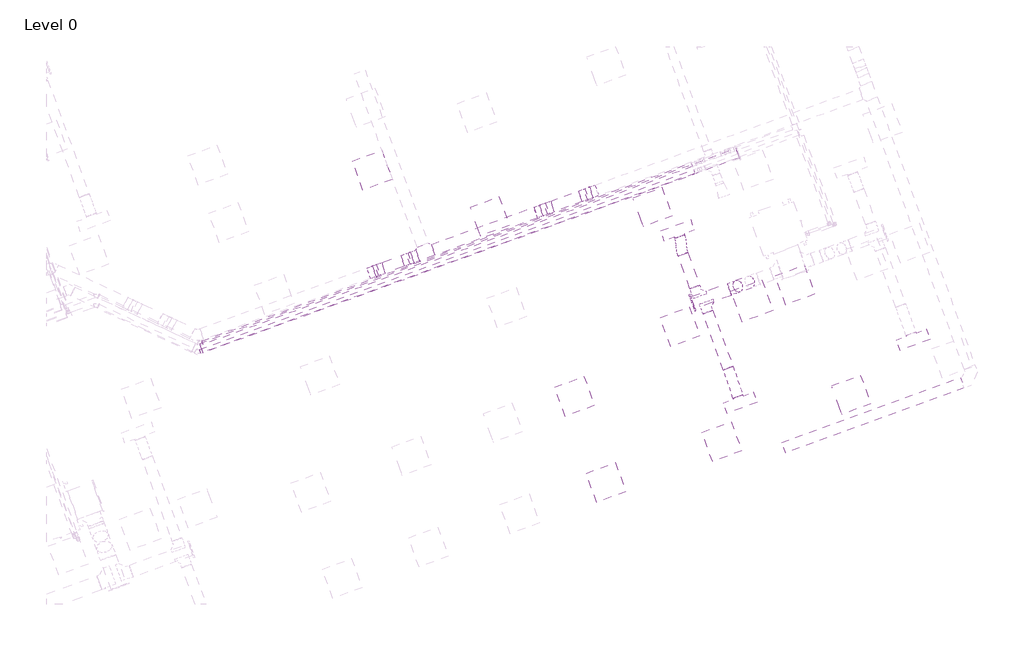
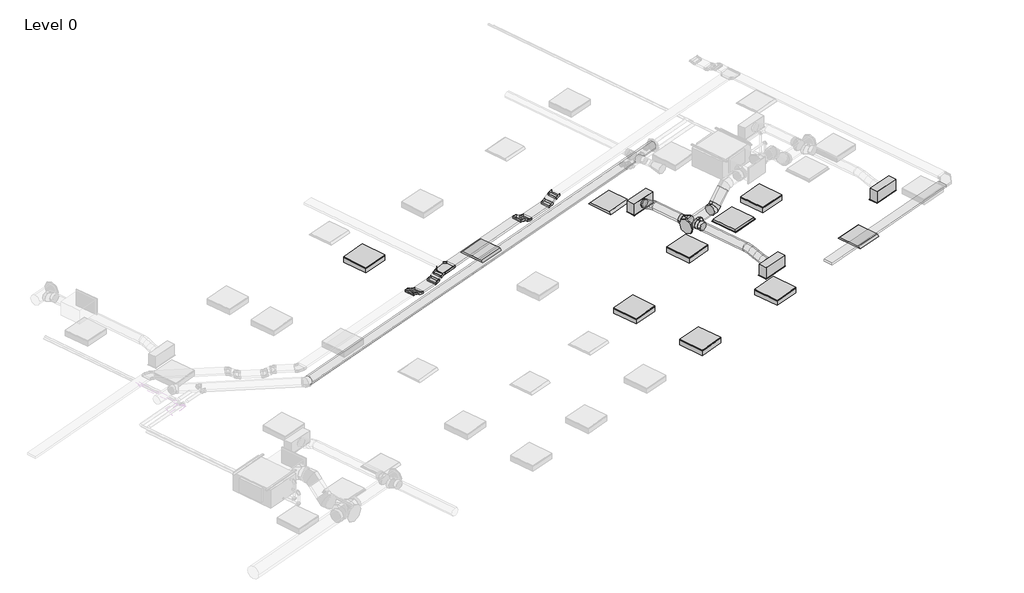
# One storey, part 28 of 34: 9 cable carrier fittings, 9 light fixtures, 8 cable carrier segments, 7 duct segments, 4 air terminals, 4 duct fittings, 2 pipe segments.
"""IFC4 building model written with IfcOpenShell, lengths in millimetres."""

from ifc_helpers import new_model, si_unit, point, frame, frame_2d, origin, place, context, project, spatial, polyline, circle_curve, ellipse_curve, trimmed, segment, composite_curve, outline, extrude, transform, mapped, element, save
from ifc_brep_helpers import plane_surface, cylinder_surface, advanced_brep
from components import return_grille_rectangular_hosted_standard_7b12617c, supply_diffuser_with_plenum_linear_slot_hosted_2b730595, cable_tray_horizontal_tee_standard_d76b5e15, cable_tray_vertical_inside_bend_standard_9a66f55b, cable_tray_vertical_outside_bend_standard_4df2047e, dw144_round_blank_end_standard_e3d0b58b, dw144_round_segmented_bend_slip_joint_standard_636bd9c1, dw144_round_shoe_branch_slip_joint1_standard_2_559552f4, light_fixture_b730b5ca, troffer_light_2x2_parabolic_2_x2_2_lamp_120v_6a063ff3

model = new_model("IFC4")

# Units and contexts
model_context = context("Model", 3, world=origin())
ifc_project = project(units=[si_unit("LENGTHUNIT", "METRE", prefix="MILLI")], contexts=[model_context])

# Site, building, storey
site = spatial("IfcSite", under=ifc_project)
building = spatial("IfcBuilding", under=site)
storey = spatial("IfcBuildingStorey", under=building, Name="Level 0", Elevation=0.0)

# Air terminals
placement = place(None, origin())
return_grille_rectangular_hosted_standard_shape = return_grille_rectangular_hosted_standard_7b12617c(model_context)
element("IfcAirTerminal", 1, ObjectType="Return Grille - Rectangular - Hosted : Standard", at=placement, inside=storey, context=model_context, shape_type="MappedRepresentation", body=[
    mapped(return_grille_rectangular_hosted_standard_shape, transform((60068.7424503, 13719.2784407, 2800.0), x_axis=(0.9396926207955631, 0.3420201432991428, 0.0), y_axis=(0.3420201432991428, -0.9396926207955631, 0.0), z_axis=(0.0, 0.0, -1.0))),
])
supply_diffuser_with_plenum_linear_slot_hosted_shape = supply_diffuser_with_plenum_linear_slot_hosted_2b730595(model_context)
element("IfcAirTerminal", 2, ObjectType="Supply Diffuser with Plenum - Linear Slot - Hosted : 24\" x 8\"-200 In Inlet  4-Slot", at=placement, inside=storey, context=model_context, shape_type="MappedRepresentation", body=[
    mapped(supply_diffuser_with_plenum_linear_slot_hosted_shape, transform((58607.3828335, 15102.9070291, 2800.0), x_axis=(-0.9396926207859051, -0.3420201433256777, 0.0), y_axis=(-0.3420201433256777, 0.9396926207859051, 0.0), z_axis=(0.0, 0.0, -1.0))),
])
element("IfcAirTerminal", 3, ObjectType="Supply Diffuser with Plenum - Linear Slot - Hosted : 24\" x 8\"-200 In Inlet  4-Slot", at=placement, inside=storey, context=model_context, shape_type="MappedRepresentation", body=[
    mapped(supply_diffuser_with_plenum_linear_slot_hosted_shape, transform((59838.6553495, 11720.0135943, 2800.0), x_axis=(0.9396926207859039, 0.342020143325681, 0.0), y_axis=(0.342020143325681, -0.9396926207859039, 0.0), z_axis=(0.0, 0.0, -1.0))),
])
element("IfcAirTerminal", 4, ObjectType="Supply Diffuser with Plenum - Linear Slot - Hosted : 24\" x 8\"-200 In Inlet  4-Slot", at=placement, inside=storey, context=model_context, shape_type="MappedRepresentation", body=[
    mapped(supply_diffuser_with_plenum_linear_slot_hosted_shape, transform((63232.5431876, 12955.2877458, 2800.0), x_axis=(0.9396926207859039, 0.342020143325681, 0.0), y_axis=(0.342020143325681, -0.9396926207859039, 0.0), z_axis=(0.0, 0.0, -1.0))),
])

# Cable carrier fittings
cable_tray_horizontal_tee_standard_shape = cable_tray_horizontal_tee_standard_d76b5e15(model_context)
element("IfcCableCarrierFitting", 5, ObjectType="Cable Tray Horizontal Tee : Standard", at=placement, inside=storey, context=model_context, shape_type="MappedRepresentation", body=[
    mapped(cable_tray_horizontal_tee_standard_shape, transform((53662.1916852, 14665.8825169, 3248.9627355), x_axis=(-0.9396926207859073, -0.3420201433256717, 0.0), y_axis=(0.3420201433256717, -0.9396926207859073, 0.0), z_axis=(0.0, 0.0, 1.0))),
])
cable_tray_vertical_inside_bend_standard_shape = cable_tray_vertical_inside_bend_standard_9a66f55b(model_context)
element("IfcCableCarrierFitting", 6, ObjectType="Cable Tray Vertical Inside Bend : Standard", at=placement, inside=storey, context=model_context, shape_type="MappedRepresentation", body=[
    mapped(cable_tray_vertical_inside_bend_standard_shape, transform((56092.1995201, 15550.3330379, 3125.0), x_axis=(-0.9396926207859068, -0.3420201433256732, 0.0), y_axis=(0.0, 0.0, 1.0), z_axis=(-0.3420201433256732, 0.9396926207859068, 0.0))),
])
element("IfcCableCarrierFitting", 7, ObjectType="Cable Tray Vertical Inside Bend : Standard", at=placement, inside=storey, context=model_context, shape_type="MappedRepresentation", body=[
    mapped(cable_tray_vertical_inside_bend_standard_shape, transform((56761.0702068, 15793.7820584, 3125.0), x_axis=(-0.8137976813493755, -0.29619813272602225, -0.4999999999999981), y_axis=(-0.46984631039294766, -0.17101007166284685, 0.8660254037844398), z_axis=(-0.3420201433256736, 0.9396926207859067, 0.0))),
])
element("IfcCableCarrierFitting", 8, ObjectType="Cable Tray Vertical Inside Bend : Standard", at=placement, inside=storey, context=model_context, shape_type="MappedRepresentation", body=[
    mapped(cable_tray_vertical_inside_bend_standard_shape, transform((52776.5170732, 14343.5233209, 3148.9627355), x_axis=(-0.9396926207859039, -0.3420201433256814, 0.0), y_axis=(0.0, 0.0, 1.0000000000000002), z_axis=(-0.3420201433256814, 0.9396926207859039, 0.0))),
])
element("IfcCableCarrierFitting", 9, ObjectType="Cable Tray Vertical Inside Bend : Standard", at=placement, inside=storey, context=model_context, shape_type="MappedRepresentation", body=[
    mapped(cable_tray_vertical_inside_bend_standard_shape, transform((53283.7846283, 14528.1536118, 3148.9627355), x_axis=(-0.8137976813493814, -0.29619813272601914, -0.4999999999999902), y_axis=(-0.4698463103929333, -0.17101007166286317, 0.8660254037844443), z_axis=(-0.3420201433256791, 0.9396926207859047, 0.0))),
])
cable_tray_vertical_outside_bend_standard_shape = cable_tray_vertical_outside_bend_standard_4df2047e(model_context)
element("IfcCableCarrierFitting", 10, ObjectType="Cable Tray Vertical Outside Bend : Standard", at=placement, inside=storey, context=model_context, shape_type="MappedRepresentation", body=[
    mapped(cable_tray_vertical_outside_bend_standard_shape, transform((55890.4383468, 15476.8979763, 3248.9627355), x_axis=(0.9396926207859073, 0.3420201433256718, 0.0), y_axis=(0.0, 0.0, -1.0000000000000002), z_axis=(-0.3420201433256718, 0.9396926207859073, 0.0))),
])
element("IfcCableCarrierFitting", 11, ObjectType="Cable Tray Vertical Outside Bend : Standard", at=placement, inside=storey, context=model_context, shape_type="MappedRepresentation", body=[
    mapped(cable_tray_vertical_outside_bend_standard_shape, transform((56962.8313802, 15867.2171199, 3248.9627355), x_axis=(0.8137976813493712, 0.29619813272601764, 0.5000000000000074), y_axis=(0.4698463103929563, 0.17101007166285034, -0.8660254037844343), z_axis=(-0.3420201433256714, 0.9396926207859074, 0.0))),
])
element("IfcCableCarrierFitting", 12, ObjectType="Cable Tray Vertical Outside Bend : Standard", at=placement, inside=storey, context=model_context, shape_type="MappedRepresentation", body=[
    mapped(cable_tray_vertical_outside_bend_standard_shape, transform((52613.757537, 14284.2836944, 3248.9627355), x_axis=(0.9396926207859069, 0.34202014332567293, 0.0), y_axis=(0.0, 0.0, -1.0), z_axis=(-0.34202014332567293, 0.9396926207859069, 0.0))),
])
element("IfcCableCarrierFitting", 13, ObjectType="Cable Tray Vertical Outside Bend : Standard", at=placement, inside=storey, context=model_context, shape_type="MappedRepresentation", body=[
    mapped(cable_tray_vertical_outside_bend_standard_shape, transform((53446.5441646, 14587.3932383, 3248.9627355), x_axis=(0.8137976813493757, 0.29619813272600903, 0.5000000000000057), y_axis=(0.4698463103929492, 0.17101007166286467, -0.8660254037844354), z_axis=(-0.34202014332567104, 0.9396926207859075, 0.0))),
])

# Cable carrier segments
element("IfcCableCarrierSegment", 14, ObjectType="Perforated Cable Tray", at=placement, inside=storey, context=model_context, shape_type="SweptSolid", body=[
    extrude(outline(polyline([(53853.3690022, 14615.7453704), (53776.4144699, 14827.17621), (55789.0136109, 15559.7023909), (55865.9681432, 15348.2715512), (53853.3690022, 14615.7453704)])), frame((0.0, 0.0, 3223.9627355), z_axis=(0.0, 0.0, 1.0), x_axis=(1.0, 0.0, 0.0)), (0.0, 0.0, 1.0), 50.0),
])
element("IfcCableCarrierSegment", 15, ObjectType="Perforated Cable Tray", at=placement, inside=storey, context=model_context, shape_type="SweptSolid", body=[
    extrude(outline(polyline([(0.0, -225.0), (0.0, 0.0), (113.9508747, 0.0), (113.9508747, -225.0), (0.0, -225.0)])), frame((55894.7290307, 15598.179657, 3193.8184513), z_axis=(0.4698463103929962, 0.1710100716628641, 0.8660254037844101), x_axis=(0.8137976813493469, 0.29619813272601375, -0.5000000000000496)), (0.0, 0.0, 1.0), 50.0),
])
element("IfcCableCarrierSegment", 16, ObjectType="Perforated Cable Tray", at=placement, inside=storey, context=model_context, shape_type="SweptSolid", body=[
    extrude(outline(polyline([(56193.624256, 15467.5286233), (56116.6697237, 15678.959463), (56659.645471, 15876.5864729), (56736.6000032, 15665.1556332), (56193.624256, 15467.5286233)])), frame((0.0, 0.0, 3100.0), z_axis=(0.0, 0.0, 1.0), x_axis=(1.0, 0.0, 0.0)), (0.0, 0.0, 1.0), 50.0),
])
element("IfcCableCarrierSegment", 17, ObjectType="Perforated Cable Tray", at=placement, inside=storey, context=model_context, shape_type="SweptSolid", body=[
    extrude(outline(polyline([(1e-07, -224.9999999), (0.0, 0.0), (113.9508747, 0.0), (113.9508747, -224.9999999), (1e-07, -224.9999999)])), frame((56788.8532063, 15923.6142426, 3136.843014), z_axis=(-0.4698463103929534, -0.17101007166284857, 0.8660254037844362), x_axis=(0.813797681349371, 0.2961981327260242, 0.5000000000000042)), (0.0, 0.0, 1.0), 50.0),
])
element("IfcCableCarrierSegment", 18, ObjectType="Perforated Cable Tray", at=placement, inside=storey, context=model_context, shape_type="SweptSolid", body=[
    extrude(outline(polyline([(64157.7578179, 12218.7489992), (64234.7123502, 12007.3181595), (60729.218143, 10731.4226117), (60652.2636108, 10942.8534514), (64157.7578179, 12218.7489992)])), frame((0.0, 0.0, 3223.9627355), z_axis=(0.0, 0.0, 1.0), x_axis=(1.0, 0.0, 0.0)), (0.0, 0.0, 1.0), 50.0),
])
element("IfcCableCarrierSegment", 19, ObjectType="Perforated Cable Tray", at=placement, inside=storey, context=model_context, shape_type="SweptSolid", body=[
    extrude(outline(polyline([(1e-07, -224.9999999), (0.0, 0.0), (66.0254039, 0.0), (66.0254038, -225.0), (1e-07, -224.9999999)])), frame((52618.0482209, 14405.565375, 3193.8184513), z_axis=(0.46984631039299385, 0.17101007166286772, 0.8660254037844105), x_axis=(0.8137976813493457, 0.2961981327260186, -0.5000000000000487)), (0.0, 0.0, 1.0), 50.0),
])
element("IfcCableCarrierSegment", 20, ObjectType="Perforated Cable Tray", at=placement, inside=storey, context=model_context, shape_type="SweptSolid", body=[
    extrude(outline(polyline([(52877.9418091, 14260.7189064), (52800.9872768, 14472.149746), (53182.3598925, 14610.9580263), (53259.3144247, 14399.5271866), (52877.9418091, 14260.7189064)])), frame((0.0, 0.0, 3123.9627355), z_axis=(0.0, 0.0, 1.0), x_axis=(1.0, 0.0, 0.0)), (0.0, 0.0, 1.0), 50.0),
])
element("IfcCableCarrierSegment", 21, ObjectType="Perforated Cable Tray", at=placement, inside=storey, context=model_context, shape_type="SweptSolid", body=[
    extrude(outline(polyline([(0.0, -225.0), (0.0, 0.0), (66.0254038, 0.0), (66.0254038, -225.0), (0.0, -225.0)])), frame((53311.5676278, 14657.985796, 3160.8057494), z_axis=(-0.46984631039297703, -0.17101007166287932, 0.8660254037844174), x_axis=(0.8137976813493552, 0.2961981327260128, 0.5000000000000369)), (0.0, 0.0, 1.0), 50.0),
])

# Duct fittings
dw144_round_blank_end_standard_shape = dw144_round_blank_end_standard_e3d0b58b(model_context)
element("IfcDuctFitting", 22, ObjectType="DW144 Round Blank End : Standard", at=placement, inside=storey, context=model_context, shape_type="MappedRepresentation", body=[
    mapped(dw144_round_blank_end_standard_shape, transform((58910.1934303, 13684.7593256, 3072.2088531), x_axis=(-0.9396926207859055, -0.3420201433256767, 0.0), y_axis=(0.3420201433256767, -0.9396926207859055, 0.0), z_axis=(0.0, 0.0, 1.0))),
])
dw144_round_segmented_bend_slip_joint_standard_shape = dw144_round_segmented_bend_slip_joint_standard_636bd9c1(model_context)
element("IfcDuctFitting", 23, ObjectType="DW144 Round Segmented Bend - Slip Joint : Standard", at=placement, inside=storey, context=model_context, shape_type="MappedRepresentation", body=[
    mapped(dw144_round_segmented_bend_slip_joint_standard_shape, transform((59723.6586367, 13980.8364474, 3072.2088531), x_axis=(-0.6644630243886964, -0.24184476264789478, -0.7071067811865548), y_axis=(-0.6644630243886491, -0.24184476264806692, 0.7071067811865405), z_axis=(-0.34202014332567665, 0.9396926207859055, 0.0))),
])
dw144_round_shoe_branch_slip_joint1_standard_2_shape = dw144_round_shoe_branch_slip_joint1_standard_2_559552f4(model_context)
element("IfcDuctFitting", 24, ObjectType="DW144 Round Shoe Branch - Slip Joint1 : Standard 2", at=placement, inside=storey, context=model_context, shape_type="MappedRepresentation", body=[
    mapped(dw144_round_shoe_branch_slip_joint1_standard_2_shape, transform((58998.2785619, 13849.8419132, 3072.2088531), x_axis=(-0.3420201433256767, 0.9396926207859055, 0.0), y_axis=(0.9396926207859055, 0.3420201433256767, 0.0), z_axis=(0.0, 0.0, -1.0))),
])
element("IfcDuctFitting", 25, ObjectType="DW144 Round Shoe Branch - Slip Joint1 : Standard 2", at=placement, inside=storey, context=model_context, shape_type="MappedRepresentation", body=[
    mapped(dw144_round_shoe_branch_slip_joint1_standard_2_shape, transform((59152.3357519, 13639.8697016, 3072.2088531), x_axis=(0.3420201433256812, -0.9396926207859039, 0.0), y_axis=(0.9396926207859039, 0.3420201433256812, 0.0), z_axis=(0.0, 0.0, 1.0))),
])

# Duct segments
element("IfcDuctSegment", 26, ObjectType="DW144 Segmented Bend / Shoe Branch", at=placement, inside=storey, context=model_context, shape_type="SweptSolid", body=[
    extrude(outline(composite_curve([segment(trimmed(circle_curve(frame_2d((0.0, 125.0)), 125.0), [point((125.0, 125.0))], [point((0.0, 0.0))], False, "CARTESIAN"), True, "CONTINUOUS"), segment(trimmed(circle_curve(frame_2d((0.0, 125.0)), 125.0), [point((0.0, 0.0))], [point((-125.0, 125.0))], False, "CARTESIAN"), True, "CONTINUOUS"), segment(trimmed(circle_curve(frame_2d((0.0, 125.0)), 125.0), [point((-125.0, 125.0))], [point((0.0, 250.0))], False, "CARTESIAN"), True, "CONTINUOUS"), segment(trimmed(circle_curve(frame_2d((0.0, 125.0)), 125.0), [point((0.0, 250.0))], [point((125.0, 125.0))], False, "CARTESIAN"), True, "CONTINUOUS")], self_intersect=False)), frame((58910.1934303, 13684.7593256, 3197.2088531), z_axis=(0.9396926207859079, 0.3420201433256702, 0.0), x_axis=(0.3420201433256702, -0.9396926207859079, 0.0)), (0.0, 0.0, 1.0), 762.1182008),
])
element("IfcDuctSegment", 27, ObjectType="DW144 Segmented Bend / Shoe Branch", at=placement, inside=storey, context=model_context, shape_type="SweptSolid", body=[
    extrude(outline(composite_curve([segment(trimmed(circle_curve(frame_2d((0.0, -100.0)), 100.0), [point((-100.0, -100.0))], [point((0.0, 0.0))], False, "CARTESIAN"), True, "CONTINUOUS"), segment(trimmed(circle_curve(frame_2d((0.0, -100.0)), 100.0), [point((0.0, 0.0))], [point((100.0, -100.0))], False, "CARTESIAN"), True, "CONTINUOUS"), segment(trimmed(circle_curve(frame_2d((0.0, -100.0)), 100.0), [point((100.0, -100.0))], [point((0.0, -200.0))], False, "CARTESIAN"), True, "CONTINUOUS"), segment(trimmed(circle_curve(frame_2d((0.0, -100.0)), 100.0), [point((0.0, -200.0))], [point((-100.0, -100.0))], False, "CARTESIAN"), True, "CONTINUOUS")], self_intersect=False)), frame((58946.9755404, 13990.7958063, 2972.2088531), z_axis=(-0.3420201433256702, 0.9396926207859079, 0.0), x_axis=(0.9396926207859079, 0.3420201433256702, 0.0)), (0.0, 0.0, 1.0), 682.8884371),
])
element("IfcDuctSegment", 28, ObjectType="DW144 Segmented Bend / Shoe Branch", at=placement, inside=storey, context=model_context, shape_type="SweptSolid", body=[
    extrude(outline(composite_curve([segment(trimmed(circle_curve(frame_2d((0.0, -100.0)), 100.0), [point((-100.0, -100.0))], [point((0.0, 0.0))], False, "CARTESIAN"), True, "CONTINUOUS"), segment(trimmed(circle_curve(frame_2d((0.0, -100.0)), 100.0), [point((0.0, 0.0))], [point((100.0, -100.0))], False, "CARTESIAN"), True, "CONTINUOUS"), segment(trimmed(circle_curve(frame_2d((0.0, -100.0)), 100.0), [point((100.0, -100.0))], [point((0.0, -200.0))], False, "CARTESIAN"), True, "CONTINUOUS"), segment(trimmed(circle_curve(frame_2d((0.0, -100.0)), 100.0), [point((0.0, -200.0))], [point((-100.0, -100.0))], False, "CARTESIAN"), True, "CONTINUOUS")], self_intersect=False)), frame((59604.382353, 12397.8818724, 2972.2088531), z_axis=(-0.3420201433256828, 0.9396926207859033, 0.0), x_axis=(0.9396926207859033, 0.3420201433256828, 0.0)), (0.0, 0.0, 1.0), 1171.6958415),
])
element("IfcDuctSegment", 29, ObjectType="DW144 Segmented Bend / Shoe Branch", at=placement, inside=storey, context=model_context, shape_type="SweptSolid", body=[
    extrude(outline(composite_curve([segment(trimmed(circle_curve(frame_2d((0.0, -125.0)), 125.0), [point((-57.2076922, -13.8591887))], [point((111.1408113, -67.7923077))], False, "CARTESIAN"), True, "CONTINUOUS"), segment(trimmed(circle_curve(frame_2d((0.0, -125.0)), 125.0), [point((111.1408113, -67.7923077))], [point((57.2076923, -236.1408114))], False, "CARTESIAN"), True, "CONTINUOUS"), segment(trimmed(circle_curve(frame_2d((0.0, -125.0)), 125.0), [point((57.2076923, -236.1408114))], [point((-111.1408114, -182.2076923))], False, "CARTESIAN"), True, "CONTINUOUS"), segment(trimmed(circle_curve(frame_2d((0.0, -125.0)), 125.0), [point((-111.1408114, -182.2076923))], [point((-57.2076922, -13.8591887))], False, "CARTESIAN"), True, "CONTINUOUS")], self_intersect=False)), frame((59792.4660358, 14124.1538736, 3104.9802107), z_axis=(0.6644630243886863, 0.24184476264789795, 0.7071067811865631), x_axis=(0.7473211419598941, -0.21503058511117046, -0.6287073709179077)), (0.0, 0.0, 1.0), 354.8538129),
])
element("IfcDuctSegment", 30, ObjectType="DW144 Segmented Bend / Shoe Branch", at=placement, inside=storey, context=model_context, shape_type="SweptSolid", body=[
    extrude(outline(composite_curve([segment(trimmed(circle_curve(frame_2d((0.0, 100.0)), 100.0), [point((100.0, 100.0))], [point((0.0, 0.0))], False, "CARTESIAN"), True, "CONTINUOUS"), segment(trimmed(circle_curve(frame_2d((0.0, 100.0)), 100.0), [point((0.0, 0.0))], [point((-100.0, 100.0))], False, "CARTESIAN"), True, "CONTINUOUS"), segment(trimmed(circle_curve(frame_2d((0.0, 100.0)), 100.0), [point((-100.0, 100.0))], [point((0.0, 200.0))], False, "CARTESIAN"), True, "CONTINUOUS"), segment(trimmed(circle_curve(frame_2d((0.0, 100.0)), 100.0), [point((0.0, 200.0))], [point((100.0, 100.0))], False, "CARTESIAN"), True, "CONTINUOUS")], self_intersect=False)), frame((49264.7509772, 12791.2817801, 3150.0), z_axis=(0.9396926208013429, 0.3420201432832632, 0.0), x_axis=(0.3420201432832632, -0.9396926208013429, 0.0)), (0.0, 0.0, 1.0), 11193.8317045),
])
element("IfcDuctSegment", 31, ObjectType="Flex - Round", at=placement, inside=storey, context=model_context, shape_type="AdvancedBrep", body=[
    advanced_brep(
    [(58619.4446772, 14598.2990171, 3072.2088531), (58713.4139393, 14632.5010315, 2972.2088531), (58807.3832013, 14666.7030458, 3072.2088531), (58713.4139393, 14632.5010315, 3172.2088531), (58611.8571705, 14619.1455202, 3072.2088531), (58711.4285678, 14637.9557946, 2972.2088531), (58803.6283672, 14677.0193678, 3072.2088531), (58704.0569699, 14658.2090934, 3172.2088531), (58556.8501296, 14949.364052, 2954.4), (58650.8193917, 14983.5660663, 3054.4), (58744.7886538, 15017.7680806, 2954.4), (58650.8193917, 14983.5660663, 2854.4), (58596.3356475, 14683.7417421, 3057.7687719), (58702.7822561, 14673.9393168, 2964.1649619), (58792.8104852, 14722.0403558, 3062.1446929), (58686.3638766, 14731.842781, 3155.7485029), (58586.178233, 14759.8572711, 3026.0560812), (58694.9620266, 14732.5409334, 2939.7492485), (58784.252044, 14786.1738302, 3035.4241924), (58675.4682505, 14813.4901678, 3121.7310251), (58579.9812869, 14829.8932676, 2991.1846607), (58688.7650805, 14802.5769299, 2904.877828), (58778.0550979, 14856.2098266, 3000.5527719), (58669.2713044, 14883.5261643, 3086.8596046), (58571.4228458, 14894.026742, 2964.4641602), (58677.8694544, 14884.2243167, 2870.8603502), (58767.8976835, 14932.3253557, 2968.8400813), (58661.4510749, 14942.1277809, 3062.4438913), (58560.6049638, 14939.0477299, 2954.4), (58660.1763611, 14957.8580043, 2854.4), (58752.3761604, 14996.9215775, 2954.4), (58652.8047631, 14978.1113031, 3054.4)],
    [
        (0, 1, circle_curve(frame((58713.4139393, 14632.5010315, 3072.2088531), z_axis=(0.34202014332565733, -0.9396926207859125, 0.0), x_axis=(-0.9396926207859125, -0.34202014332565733, 0.0)), 100.0)),
        (1, 2, circle_curve(frame((58713.4139393, 14632.5010315, 3072.2088531), z_axis=(0.34202014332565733, -0.9396926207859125, 0.0), x_axis=(-0.9396926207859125, -0.34202014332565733, 0.0)), 100.0)),
        (2, 3, circle_curve(frame((58713.4139393, 14632.5010315, 3072.2088531), z_axis=(0.34202014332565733, -0.9396926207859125, 0.0), x_axis=(-0.9396926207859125, -0.34202014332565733, 0.0)), 100.0)),
        (3, 0, circle_curve(frame((58713.4139393, 14632.5010315, 3072.2088531), z_axis=(0.34202014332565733, -0.9396926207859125, 0.0), x_axis=(-0.9396926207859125, -0.34202014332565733, 0.0)), 100.0)),
        (0, 4),
        (4, 5, ellipse_curve(frame((58707.7427689, 14648.082444, 3072.2088531), z_axis=(0.2872580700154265, -0.951860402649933, 0.10697932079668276), x_axis=(0.47155649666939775, 0.043319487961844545, -0.8807711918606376)), 100.7349377, 100.0)),
        (5, 1),
        (5, 6, ellipse_curve(frame((58707.7427689, 14648.082444, 3072.2088531), z_axis=(0.2872580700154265, -0.951860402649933, 0.10697932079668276), x_axis=(0.47155649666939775, 0.043319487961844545, -0.8807711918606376)), 100.7349377, 100.0)),
        (6, 2),
        (6, 7, ellipse_curve(frame((58707.7427689, 14648.082444, 3072.2088531), z_axis=(0.2872580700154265, -0.951860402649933, 0.10697932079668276), x_axis=(0.47155649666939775, 0.043319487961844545, -0.8807711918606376)), 100.7349377, 100.0)),
        (7, 3),
        (7, 4, ellipse_curve(frame((58707.7427689, 14648.082444, 3072.2088531), z_axis=(0.2872580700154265, -0.951860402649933, 0.10697932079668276), x_axis=(0.47155649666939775, 0.043319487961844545, -0.8807711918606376)), 100.7349377, 100.0)),
        (8, 9, circle_curve(frame((58650.8193917, 14983.5660663, 2954.4), z_axis=(-0.3420201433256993, 0.9396926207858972, 0.0), x_axis=(-0.9396926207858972, -0.3420201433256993, 0.0)), 100.0)),
        (9, 10, circle_curve(frame((58650.8193917, 14983.5660663, 2954.4), z_axis=(-0.3420201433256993, 0.9396926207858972, 0.0), x_axis=(-0.9396926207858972, -0.3420201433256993, 0.0)), 100.0)),
        (10, 11, circle_curve(frame((58650.8193917, 14983.5660663, 2954.4), z_axis=(-0.3420201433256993, 0.9396926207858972, 0.0), x_axis=(-0.9396926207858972, -0.3420201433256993, 0.0)), 100.0)),
        (11, 8, circle_curve(frame((58650.8193917, 14983.5660663, 2954.4), z_axis=(-0.3420201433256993, 0.9396926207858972, 0.0), x_axis=(-0.9396926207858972, -0.3420201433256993, 0.0)), 100.0)),
        (4, 12),
        (12, 13, ellipse_curve(frame((58694.5730663, 14702.8910489, 3059.9567324), z_axis=(0.1761886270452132, -0.9379774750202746, 0.2985897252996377), x_axis=(0.5232975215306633, -0.16766949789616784, -0.8354918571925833)), 100.5173143, 100.0)),
        (13, 5),
        (13, 14, ellipse_curve(frame((58694.5730663, 14702.8910489, 3059.9567324), z_axis=(0.1761886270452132, -0.9379774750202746, 0.2985897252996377), x_axis=(0.5232975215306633, -0.16766949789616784, -0.8354918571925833)), 100.5173143, 100.0)),
        (14, 6),
        (14, 15, ellipse_curve(frame((58694.5730663, 14702.8910489, 3059.9567324), z_axis=(0.1761886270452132, -0.9379774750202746, 0.2985897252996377), x_axis=(0.5232975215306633, -0.16766949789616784, -0.8354918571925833)), 100.5173143, 100.0)),
        (15, 7),
        (15, 12, ellipse_curve(frame((58694.5730663, 14702.8910489, 3059.9567324), z_axis=(0.1761886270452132, -0.9379774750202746, 0.2985897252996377), x_axis=(0.5232975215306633, -0.16766949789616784, -0.8354918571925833)), 100.5173143, 100.0)),
        (12, 16),
        (16, 17, ellipse_curve(frame((58685.2151385, 14773.0155506, 3030.7401368), z_axis=(0.10068966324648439, -0.9049906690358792, 0.41334426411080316), x_axis=(0.5429036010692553, -0.2981722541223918, -0.7850789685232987)), 100.0796062, 100.0)),
        (17, 13),
        (17, 18, ellipse_curve(frame((58685.2151385, 14773.0155506, 3030.7401368), z_axis=(0.10068966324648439, -0.9049906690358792, 0.41334426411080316), x_axis=(0.5429036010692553, -0.2981722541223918, -0.7850789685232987)), 100.0796062, 100.0)),
        (18, 14),
        (18, 19, ellipse_curve(frame((58685.2151385, 14773.0155506, 3030.7401368), z_axis=(0.10068966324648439, -0.9049906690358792, 0.41334426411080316), x_axis=(0.5429036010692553, -0.2981722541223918, -0.7850789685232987)), 100.0796062, 100.0)),
        (19, 15),
        (19, 16, ellipse_curve(frame((58685.2151385, 14773.0155506, 3030.7401368), z_axis=(0.10068966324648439, -0.9049906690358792, 0.41334426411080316), x_axis=(0.5429036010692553, -0.2981722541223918, -0.7850789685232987)), 100.0796062, 100.0)),
        (16, 20),
        (20, 21, ellipse_curve(frame((58679.0181924, 14843.0515471, 2995.8687163), z_axis=(0.10068966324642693, -0.9049906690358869, 0.41334426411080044), x_axis=(-0.5429036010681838, 0.2981722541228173, 0.7850789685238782)), 100.0796062, 100.0)),
        (21, 17),
        (21, 22, ellipse_curve(frame((58679.0181924, 14843.0515471, 2995.8687163), z_axis=(0.10068966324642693, -0.9049906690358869, 0.41334426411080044), x_axis=(-0.5429036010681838, 0.2981722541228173, 0.7850789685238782)), 100.0796062, 100.0)),
        (22, 18),
        (22, 23, ellipse_curve(frame((58679.0181924, 14843.0515471, 2995.8687163), z_axis=(0.10068966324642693, -0.9049906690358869, 0.41334426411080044), x_axis=(-0.5429036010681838, 0.2981722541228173, 0.7850789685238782)), 100.0796062, 100.0)),
        (23, 19),
        (23, 20, ellipse_curve(frame((58679.0181924, 14843.0515471, 2995.8687163), z_axis=(0.10068966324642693, -0.9049906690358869, 0.41334426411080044), x_axis=(-0.5429036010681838, 0.2981722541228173, 0.7850789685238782)), 100.0796062, 100.0)),
        (20, 24),
        (24, 25, ellipse_curve(frame((58669.6602646, 14913.1760488, 2966.6521207), z_axis=(0.1761886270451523, -0.937977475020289, 0.298589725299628), x_axis=(-0.5232975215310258, 0.16766949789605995, 0.8354918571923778)), 100.5173143, 100.0)),
        (25, 21),
        (25, 26, ellipse_curve(frame((58669.6602646, 14913.1760488, 2966.6521207), z_axis=(0.1761886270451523, -0.937977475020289, 0.298589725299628), x_axis=(-0.5232975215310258, 0.16766949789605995, 0.8354918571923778)), 100.5173143, 100.0)),
        (26, 22),
        (26, 27, ellipse_curve(frame((58669.6602646, 14913.1760488, 2966.6521207), z_axis=(0.1761886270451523, -0.937977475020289, 0.298589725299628), x_axis=(-0.5232975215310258, 0.16766949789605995, 0.8354918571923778)), 100.5173143, 100.0)),
        (27, 23),
        (27, 24, ellipse_curve(frame((58669.6602646, 14913.1760488, 2966.6521207), z_axis=(0.1761886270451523, -0.937977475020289, 0.298589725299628), x_axis=(-0.5232975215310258, 0.16766949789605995, 0.8354918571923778)), 100.5173143, 100.0)),
        (24, 28),
        (28, 29, ellipse_curve(frame((58656.4905621, 14967.9846537, 2954.4), z_axis=(0.287258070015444, -0.9518604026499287, 0.10697932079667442), x_axis=(-0.47155649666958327, -0.04331948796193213, 0.8807711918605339)), 100.7349377, 100.0)),
        (29, 25),
        (29, 30, ellipse_curve(frame((58656.4905621, 14967.9846537, 2954.4), z_axis=(0.287258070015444, -0.9518604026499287, 0.10697932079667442), x_axis=(-0.47155649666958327, -0.04331948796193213, 0.8807711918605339)), 100.7349377, 100.0)),
        (30, 26),
        (30, 31, ellipse_curve(frame((58656.4905621, 14967.9846537, 2954.4), z_axis=(0.287258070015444, -0.9518604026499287, 0.10697932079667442), x_axis=(-0.47155649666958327, -0.04331948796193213, 0.8807711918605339)), 100.7349377, 100.0)),
        (31, 27),
        (31, 28, ellipse_curve(frame((58656.4905621, 14967.9846537, 2954.4), z_axis=(0.287258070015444, -0.9518604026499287, 0.10697932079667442), x_axis=(-0.47155649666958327, -0.04331948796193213, 0.8807711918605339)), 100.7349377, 100.0)),
        (28, 8),
        (11, 29),
        (10, 30),
        (9, 31),
    ],
    [
        plane_surface(frame((58713.4139393, 14632.5010315, 3172.2088531), z_axis=(0.3420201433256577, -0.9396926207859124, 0.0), x_axis=(0.9396926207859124, 0.3420201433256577, 0.0))),
        cylinder_surface(frame((58713.4139393, 14632.5010315, 3072.2088531), z_axis=(0.34202014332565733, -0.9396926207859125, 0.0), x_axis=(-0.9396926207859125, -0.34202014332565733, 0.0)), 100.0),
        plane_surface(frame((58650.8193917, 14983.5660663, 3054.4), z_axis=(-0.34202014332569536, 0.9396926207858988, 0.0), x_axis=(0.9396926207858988, 0.34202014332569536, 0.0))),
        cylinder_surface(frame((58707.7427689, 14648.082444, 3072.2088531), z_axis=(0.22830446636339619, -0.9501390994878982, 0.21239765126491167), x_axis=(-0.9716478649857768, -0.23613301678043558, -0.011900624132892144)), 100.0),
        cylinder_surface(frame((58694.5730663, 14702.8910489, 3059.9567324), z_axis=(0.12225927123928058, -0.916161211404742, 0.3817084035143), x_axis=(-0.9881182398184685, -0.14844948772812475, -0.03981323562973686)), 100.0),
        cylinder_surface(frame((58685.2151385, 14773.0155506, 3030.7401368), z_axis=(0.07895987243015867, -0.8923804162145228, 0.44432255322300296), x_axis=(-0.9918227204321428, -0.11515391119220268, -0.055020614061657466)), 100.0),
        cylinder_surface(frame((58679.0181924, 14843.0515471, 2995.8687163), z_axis=(0.12225927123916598, -0.9161612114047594, 0.3817084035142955), x_axis=(-0.9881182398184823, -0.14844948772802, -0.03981323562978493)), 100.0),
        cylinder_surface(frame((58669.6602646, 14913.1760488, 2966.6521207), z_axis=(0.22830446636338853, -0.9501390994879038, 0.21239765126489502), x_axis=(-0.9716478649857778, -0.23613301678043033, -0.01190062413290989)), 100.0),
        cylinder_surface(frame((58656.4905621, 14967.9846537, 2954.4), z_axis=(0.3420201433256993, -0.9396926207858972, 0.0), x_axis=(-0.9396926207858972, -0.3420201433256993, 0.0)), 100.0),
    ],
    [
        (0, [[1, 2, 3, 4]]),
        (1, [[-1, 5, 6, 7]]),
        (1, [[-2, -7, 8, 9]]),
        (1, [[-3, -9, 10, 11]]),
        (1, [[-4, -11, 12, -5]]),
        (2, [[13, 14, 15, 16]]),
        (3, [[-6, 17, 18, 19]]),
        (3, [[-8, -19, 20, 21]]),
        (3, [[-10, -21, 22, 23]]),
        (3, [[-12, -23, 24, -17]]),
        (4, [[-18, 25, 26, 27]]),
        (4, [[-20, -27, 28, 29]]),
        (4, [[-22, -29, 30, 31]]),
        (4, [[-24, -31, 32, -25]]),
        (5, [[-26, 33, 34, 35]]),
        (5, [[-28, -35, 36, 37]]),
        (5, [[-30, -37, 38, 39]]),
        (5, [[-32, -39, 40, -33]]),
        (6, [[-34, 41, 42, 43]]),
        (6, [[-36, -43, 44, 45]]),
        (6, [[-38, -45, 46, 47]]),
        (6, [[-40, -47, 48, -41]]),
        (7, [[-42, 49, 50, 51]]),
        (7, [[-44, -51, 52, 53]]),
        (7, [[-46, -53, 54, 55]]),
        (7, [[-48, -55, 56, -49]]),
        (8, [[-50, 57, -16, 58]]),
        (8, [[-52, -58, -15, 59]]),
        (8, [[-54, -59, -14, 60]]),
        (8, [[-56, -60, -13, -57]]),
    ],
),
])
element("IfcDuctSegment", 32, ObjectType="Flex - Round", at=placement, inside=storey, context=model_context, shape_type="AdvancedBrep", body=[
    advanced_brep(
    [(59698.3516151, 12432.0838867, 3072.2088531), (59604.382353, 12397.8818724, 2972.2088531), (59510.4130909, 12363.6798581, 3072.2088531), (59604.382353, 12397.8818724, 3172.2088531), (59702.7832903, 12419.907959, 3072.2088531), (59606.2874646, 12392.6476213, 2972.2088531), (59514.38826, 12352.7581707, 3072.2088531), (59610.8840858, 12380.0185084, 3172.2088531), (59889.1880534, 11873.5565715, 2954.4), (59795.2187913, 11839.3545572, 3054.4), (59701.2495293, 11805.1525428, 2954.4), (59795.2187913, 11839.3545572, 2854.4), (59748.1346637, 12289.9088871, 3053.6217333), (59646.7912698, 12276.5440351, 2955.608494), (59558.863762, 12225.2697715, 3053.9807064), (59660.2071559, 12238.6346235, 3151.9939456), (59794.6414339, 12150.3212424, 3012.9452804), (59691.0243193, 12143.7808446, 2916.9207171), (59604.9597104, 12086.9151871, 3013.6635727), (59708.5768251, 12093.4555849, 3109.688136), (59840.7373823, 12011.966658, 2972.6281467), (59739.3939884, 11998.601806, 2874.6149075), (59651.4664807, 11947.3275425, 2972.9871199), (59752.8098745, 11960.6923945, 3071.0003591), (59885.2128843, 11884.4782589, 2954.4), (59788.7170586, 11857.2179211, 2854.4), (59696.817854, 11817.3284705, 2954.4), (59793.3136797, 11844.5888083, 3054.4)],
    [
        (0, 1, circle_curve(frame((59604.382353, 12397.8818724, 3072.2088531), z_axis=(-0.3420201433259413, 0.9396926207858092, 0.0), x_axis=(0.9396926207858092, 0.3420201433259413, 0.0)), 100.0)),
        (1, 2, circle_curve(frame((59604.382353, 12397.8818724, 3072.2088531), z_axis=(-0.3420201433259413, 0.9396926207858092, 0.0), x_axis=(0.9396926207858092, 0.3420201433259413, 0.0)), 100.0)),
        (2, 3, circle_curve(frame((59604.382353, 12397.8818724, 3072.2088531), z_axis=(-0.3420201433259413, 0.9396926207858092, 0.0), x_axis=(0.9396926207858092, 0.3420201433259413, 0.0)), 100.0)),
        (3, 0, circle_curve(frame((59604.382353, 12397.8818724, 3072.2088531), z_axis=(-0.3420201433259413, 0.9396926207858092, 0.0), x_axis=(0.9396926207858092, 0.3420201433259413, 0.0)), 100.0)),
        (0, 4),
        (4, 5, ellipse_curve(frame((59608.5857752, 12386.3330648, 3072.2088531), z_axis=(-0.33498602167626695, 0.9398347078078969, 0.06704541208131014), x_axis=(-0.11569989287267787, 0.029587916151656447, -0.9928434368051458)), 100.2277468, 100.0)),
        (5, 1),
        (5, 6, ellipse_curve(frame((59608.5857752, 12386.3330648, 3072.2088531), z_axis=(-0.33498602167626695, 0.9398347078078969, 0.06704541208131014), x_axis=(-0.11569989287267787, 0.029587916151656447, -0.9928434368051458)), 100.2277468, 100.0)),
        (6, 2),
        (6, 7, ellipse_curve(frame((59608.5857752, 12386.3330648, 3072.2088531), z_axis=(-0.33498602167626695, 0.9398347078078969, 0.06704541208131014), x_axis=(-0.11569989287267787, 0.029587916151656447, -0.9928434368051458)), 100.2277468, 100.0)),
        (7, 3),
        (7, 4, ellipse_curve(frame((59608.5857752, 12386.3330648, 3072.2088531), z_axis=(-0.33498602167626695, 0.9398347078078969, 0.06704541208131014), x_axis=(-0.11569989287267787, 0.029587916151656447, -0.9928434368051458)), 100.2277468, 100.0)),
        (8, 9, circle_curve(frame((59795.2187913, 11839.3545572, 2954.4), z_axis=(0.3420201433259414, -0.9396926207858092, 0.0), x_axis=(0.9396926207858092, 0.3420201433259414, 0.0)), 100.0)),
        (9, 10, circle_curve(frame((59795.2187913, 11839.3545572, 2954.4), z_axis=(0.3420201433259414, -0.9396926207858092, 0.0), x_axis=(0.9396926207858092, 0.3420201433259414, 0.0)), 100.0)),
        (10, 11, circle_curve(frame((59795.2187913, 11839.3545572, 2954.4), z_axis=(0.3420201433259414, -0.9396926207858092, 0.0), x_axis=(0.9396926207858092, 0.3420201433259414, 0.0)), 100.0)),
        (11, 8, circle_curve(frame((59795.2187913, 11839.3545572, 2954.4), z_axis=(0.3420201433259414, -0.9396926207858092, 0.0), x_axis=(0.9396926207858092, 0.3420201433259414, 0.0)), 100.0)),
        (4, 12),
        (12, 13, ellipse_curve(frame((59653.4992129, 12257.5893293, 3053.8012198), z_axis=(-0.31627915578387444, 0.9272164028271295, 0.20059221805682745), x_axis=(-0.15990495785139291, 0.15631527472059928, -0.974677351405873)), 100.2324466, 100.0)),
        (13, 5),
        (13, 14, ellipse_curve(frame((59653.4992129, 12257.5893293, 3053.8012198), z_axis=(-0.31627915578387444, 0.9272164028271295, 0.20059221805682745), x_axis=(-0.15990495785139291, 0.15631527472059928, -0.974677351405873)), 100.2324466, 100.0)),
        (14, 6),
        (14, 15, ellipse_curve(frame((59653.4992129, 12257.5893293, 3053.8012198), z_axis=(-0.31627915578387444, 0.9272164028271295, 0.20059221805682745), x_axis=(-0.15990495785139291, 0.15631527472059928, -0.974677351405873)), 100.2324466, 100.0)),
        (15, 7),
        (15, 12, ellipse_curve(frame((59653.4992129, 12257.5893293, 3053.8012198), z_axis=(-0.31627915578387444, 0.9272164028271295, 0.20059221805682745), x_axis=(-0.15990495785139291, 0.15631527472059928, -0.974677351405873)), 100.2324466, 100.0)),
        (12, 16),
        (16, 17, circle_curve(frame((59699.8005722, 12118.6182148, 3013.3044266), z_axis=(-0.3046618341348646, 0.9144266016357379, 0.2664679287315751), x_axis=(0.9484086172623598, 0.31703027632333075, -0.0035914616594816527)), 100.0)),
        (17, 13),
        (17, 18, circle_curve(frame((59699.8005722, 12118.6182148, 3013.3044266), z_axis=(-0.3046618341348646, 0.9144266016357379, 0.2664679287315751), x_axis=(0.9484086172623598, 0.31703027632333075, -0.0035914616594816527)), 100.0)),
        (18, 14),
        (18, 19, circle_curve(frame((59699.8005722, 12118.6182148, 3013.3044266), z_axis=(-0.3046618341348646, 0.9144266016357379, 0.2664679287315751), x_axis=(0.9484086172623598, 0.31703027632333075, -0.0035914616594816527)), 100.0)),
        (19, 15),
        (19, 16, circle_curve(frame((59699.8005722, 12118.6182148, 3013.3044266), z_axis=(-0.3046618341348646, 0.9144266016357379, 0.2664679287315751), x_axis=(0.9484086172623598, 0.31703027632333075, -0.0035914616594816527)), 100.0)),
        (16, 20),
        (20, 21, ellipse_curve(frame((59746.1019315, 11979.6471003, 2972.8076333), z_axis=(-0.31627915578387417, 0.9272164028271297, 0.20059221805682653), x_axis=(0.15990495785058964, -0.15631527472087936, 0.9746773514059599)), 100.2324466, 100.0)),
        (21, 17),
        (21, 22, ellipse_curve(frame((59746.1019315, 11979.6471003, 2972.8076333), z_axis=(-0.31627915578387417, 0.9272164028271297, 0.20059221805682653), x_axis=(0.15990495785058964, -0.15631527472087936, 0.9746773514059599)), 100.2324466, 100.0)),
        (22, 18),
        (22, 23, ellipse_curve(frame((59746.1019315, 11979.6471003, 2972.8076333), z_axis=(-0.31627915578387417, 0.9272164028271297, 0.20059221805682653), x_axis=(0.15990495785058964, -0.15631527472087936, 0.9746773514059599)), 100.2324466, 100.0)),
        (23, 19),
        (23, 20, ellipse_curve(frame((59746.1019315, 11979.6471003, 2972.8076333), z_axis=(-0.31627915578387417, 0.9272164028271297, 0.20059221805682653), x_axis=(0.15990495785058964, -0.15631527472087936, 0.9746773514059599)), 100.2324466, 100.0)),
        (20, 24),
        (24, 25, ellipse_curve(frame((59791.0153691, 11850.9033647, 2954.4), z_axis=(-0.3349860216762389, 0.9398347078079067, 0.06704541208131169), x_axis=(0.11569989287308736, -0.029587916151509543, 0.9928434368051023)), 100.2277468, 100.0)),
        (25, 21),
        (25, 26, ellipse_curve(frame((59791.0153691, 11850.9033647, 2954.4), z_axis=(-0.3349860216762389, 0.9398347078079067, 0.06704541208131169), x_axis=(0.11569989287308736, -0.029587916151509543, 0.9928434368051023)), 100.2277468, 100.0)),
        (26, 22),
        (26, 27, ellipse_curve(frame((59791.0153691, 11850.9033647, 2954.4), z_axis=(-0.3349860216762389, 0.9398347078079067, 0.06704541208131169), x_axis=(0.11569989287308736, -0.029587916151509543, 0.9928434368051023)), 100.2277468, 100.0)),
        (27, 23),
        (27, 24, ellipse_curve(frame((59791.0153691, 11850.9033647, 2954.4), z_axis=(-0.3349860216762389, 0.9398347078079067, 0.06704541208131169), x_axis=(0.11569989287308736, -0.029587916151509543, 0.9928434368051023)), 100.2277468, 100.0)),
        (24, 8),
        (11, 25),
        (10, 26),
        (9, 27),
    ],
    [
        plane_surface(frame((59604.382353, 12397.8818724, 2972.2088531), z_axis=(-0.34202014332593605, 0.9396926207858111, 0.0), x_axis=(0.9396926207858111, 0.34202014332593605, 0.0))),
        cylinder_surface(frame((59604.382353, 12397.8818724, 3072.2088531), z_axis=(-0.3420201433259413, 0.9396926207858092, 0.0), x_axis=(0.9396926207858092, 0.3420201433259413, 0.0)), 100.0),
        plane_surface(frame((59795.2187913, 11839.3545572, 2854.4), z_axis=(0.34202014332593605, -0.9396926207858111, 0.0), x_axis=(0.9396926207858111, 0.34202014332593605, 0.0))),
        cylinder_surface(frame((59608.5857752, 12386.3330648, 3072.2088531), z_axis=(-0.3264295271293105, 0.935705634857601, 0.13378613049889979), x_axis=(0.9441536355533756, 0.3295043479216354, -0.0008928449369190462)), 100.0),
        cylinder_surface(frame((59653.4992129, 12257.5893293, 3053.8012198), z_axis=(-0.30466183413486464, 0.9144266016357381, 0.26646792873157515), x_axis=(0.9484086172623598, 0.31703027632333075, -0.0035914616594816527)), 100.0),
        cylinder_surface(frame((59699.8005722, 12118.6182148, 3013.3044266), z_axis=(-0.30466183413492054, 0.9144266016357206, 0.2664679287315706), x_axis=(0.9484086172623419, 0.31703027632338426, -0.0035914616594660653)), 100.0),
        cylinder_surface(frame((59746.1019315, 11979.6471003, 2972.8076333), z_axis=(-0.3264295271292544, 0.9357056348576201, 0.13378613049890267), x_axis=(0.9441536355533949, 0.3295043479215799, -0.00089284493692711)), 100.0),
        cylinder_surface(frame((59791.0153691, 11850.9033647, 2954.4), z_axis=(-0.3420201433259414, 0.9396926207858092, 0.0), x_axis=(0.9396926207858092, 0.3420201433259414, 0.0)), 100.0),
    ],
    [
        (0, [[1, 2, 3, 4]]),
        (1, [[-1, 5, 6, 7]]),
        (1, [[-2, -7, 8, 9]]),
        (1, [[-3, -9, 10, 11]]),
        (1, [[-4, -11, 12, -5]]),
        (2, [[13, 14, 15, 16]]),
        (3, [[-6, 17, 18, 19]]),
        (3, [[-8, -19, 20, 21]]),
        (3, [[-10, -21, 22, 23]]),
        (3, [[-12, -23, 24, -17]]),
        (4, [[-18, 25, 26, 27]]),
        (4, [[-20, -27, 28, 29]]),
        (4, [[-22, -29, 30, 31]]),
        (4, [[-24, -31, 32, -25]]),
        (5, [[-26, 33, 34, 35]]),
        (5, [[-28, -35, 36, 37]]),
        (5, [[-30, -37, 38, 39]]),
        (5, [[-32, -39, 40, -33]]),
        (6, [[-34, 41, 42, 43]]),
        (6, [[-36, -43, 44, 45]]),
        (6, [[-38, -45, 46, 47]]),
        (6, [[-40, -47, 48, -41]]),
        (7, [[-42, 49, -16, 50]]),
        (7, [[-44, -50, -15, 51]]),
        (7, [[-46, -51, -14, 52]]),
        (7, [[-48, -52, -13, -49]]),
    ],
),
])

# Light fixtures
light_fixture_shape = light_fixture_b730b5ca(model_context)
element("IfcLightFixture", 33, ObjectType="ELEKTRA EM Recessed Lighting Fixture : 24\" x 24\" - 230", at=placement, inside=storey, context=model_context, shape_type="MappedRepresentation", body=[
    mapped(light_fixture_shape, transform((54745.8414766, 14995.9306349, 2800.0), x_axis=(0.9396926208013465, 0.342020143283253, 0.0), y_axis=(0.342020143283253, -0.9396926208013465, 0.0), z_axis=(0.0, 0.0, -1.0))),
])
element("IfcLightFixture", 34, ObjectType="ELEKTRA EM Recessed Lighting Fixture : 24\" x 24\" - 230", at=placement, inside=storey, context=model_context, shape_type="MappedRepresentation", body=[
    mapped(light_fixture_shape, transform((61837.9201959, 11489.9264935, 2800.0), x_axis=(0.9396926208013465, 0.3420201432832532, 0.0), y_axis=(0.3420201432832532, -0.9396926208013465, 0.0), z_axis=(0.0, 0.0, -1.0))),
])
element("IfcLightFixture", 35, ObjectType="ELEKTRA EM Recessed Lighting Fixture : 24\" x 24\" - 230", at=placement, inside=storey, context=model_context, shape_type="MappedRepresentation", body=[
    mapped(light_fixture_shape, transform((57940.9612183, 15179.6027295, 2800.0), x_axis=(0.9396926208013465, 0.3420201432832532, 0.0), y_axis=(0.3420201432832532, -0.9396926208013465, 0.0), z_axis=(0.0, 0.0, -1.0))),
])
troffer_light_2x2_parabolic_2_x2_2_lamp_120v_shape = troffer_light_2x2_parabolic_2_x2_2_lamp_120v_6a063ff3(model_context)
element("IfcLightFixture", 36, ObjectType="Troffer Light - 2x2 Parabolic : 2'x2'(2 Lamp) - 120V", at=placement, inside=storey, context=model_context, shape_type="MappedRepresentation", body=[
    mapped(troffer_light_2x2_parabolic_2_x2_2_lamp_120v_shape, transform((52723.1037557, 15998.580793, 2800.0), x_axis=(0.9396926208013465, 0.342020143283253, 0.0), y_axis=(0.342020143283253, -0.9396926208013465, 0.0), z_axis=(0.0, 0.0, -1.0))),
])
element("IfcLightFixture", 37, ObjectType="Troffer Light - 2x2 Parabolic : 2'x2'(2 Lamp) - 120V", at=placement, inside=storey, context=model_context, shape_type="MappedRepresentation", body=[
    mapped(troffer_light_2x2_parabolic_2_x2_2_lamp_120v_shape, transform((57308.0260374, 9867.0925844, 2800.0), x_axis=(0.9396926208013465, 0.3420201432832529, 0.0), y_axis=(0.3420201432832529, -0.9396926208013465, 0.0), z_axis=(0.0, 0.0, -1.0))),
])
element("IfcLightFixture", 38, ObjectType="Troffer Light - 2x2 Parabolic : 2'x2'(2 Lamp) - 120V", at=placement, inside=storey, context=model_context, shape_type="MappedRepresentation", body=[
    mapped(troffer_light_2x2_parabolic_2_x2_2_lamp_120v_shape, transform((56692.3897795, 11558.5393018, 2800.0), x_axis=(0.9396926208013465, 0.3420201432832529, 0.0), y_axis=(0.3420201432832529, -0.9396926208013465, 0.0), z_axis=(0.0, 0.0, -1.0))),
])
element("IfcLightFixture", 39, ObjectType="Troffer Light - 2x2 Parabolic : 2'x2'(2 Lamp) - 120V", at=placement, inside=storey, context=model_context, shape_type="MappedRepresentation", body=[
    mapped(troffer_light_2x2_parabolic_2_x2_2_lamp_120v_shape, transform((59582.657906, 10669.0781496, 2800.0), x_axis=(0.9396926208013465, 0.3420201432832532, 0.0), y_axis=(0.3420201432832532, -0.9396926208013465, 0.0), z_axis=(0.0, 0.0, -1.0))),
])
element("IfcLightFixture", 40, ObjectType="Troffer Light - 2x2 Parabolic : 2'x2'(2 Lamp) - 120V", at=placement, inside=storey, context=model_context, shape_type="MappedRepresentation", body=[
    mapped(troffer_light_2x2_parabolic_2_x2_2_lamp_120v_shape, transform((58761.8095621, 12924.3404396, 2800.0), x_axis=(0.9396926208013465, 0.3420201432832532, 0.0), y_axis=(0.3420201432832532, -0.9396926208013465, 0.0), z_axis=(0.0, 0.0, -1.0))),
])
element("IfcLightFixture", 41, ObjectType="Troffer Light - 2x2 Parabolic : 2'x2'(2 Lamp) - 120V", at=placement, inside=storey, context=model_context, shape_type="MappedRepresentation", body=[
    mapped(troffer_light_2x2_parabolic_2_x2_2_lamp_120v_shape, transform((61017.0718521, 13745.1887834, 2800.0), x_axis=(0.9396926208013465, 0.3420201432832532, 0.0), y_axis=(0.3420201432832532, -0.9396926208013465, 0.0), z_axis=(0.0, 0.0, -1.0))),
])

# Pipe segments
element("IfcPipeSegment", 42, ObjectType="Carbon Steel - Threaded", at=placement, inside=storey, context=model_context, shape_type="SweptSolid", body=[
    extrude(outline(composite_curve([segment(trimmed(circle_curve(frame_2d((0.0, 38.3)), 38.3), [point((38.3, 38.3))], [point((0.0, 0.0))], False, "CARTESIAN"), True, "CONTINUOUS"), segment(trimmed(circle_curve(frame_2d((0.0, 38.3)), 38.3), [point((0.0, 0.0))], [point((-38.3, 38.3))], False, "CARTESIAN"), True, "CONTINUOUS"), segment(trimmed(circle_curve(frame_2d((0.0, 38.3)), 38.3), [point((-38.3, 38.3))], [point((0.0, 76.6))], False, "CARTESIAN"), True, "CONTINUOUS"), segment(trimmed(circle_curve(frame_2d((0.0, 38.3)), 38.3), [point((0.0, 76.6))], [point((38.3, 38.3))], False, "CARTESIAN"), True, "CONTINUOUS")], self_intersect=False)), frame((49289.0338602, 12898.2861759, 3038.3), z_axis=(0.9396926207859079, 0.3420201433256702, 0.0), x_axis=(0.3420201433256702, -0.9396926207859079, 0.0)), (0.0, 0.0, 1.0), 10212.5253551),
])
element("IfcPipeSegment", 43, ObjectType="Carbon Steel - Threaded", at=placement, inside=storey, context=model_context, shape_type="SweptSolid", body=[
    extrude(outline(composite_curve([segment(trimmed(circle_curve(frame_2d((0.0, 38.3)), 38.3), [point((38.3, 38.3))], [point((0.0, 0.0))], False, "CARTESIAN"), True, "CONTINUOUS"), segment(trimmed(circle_curve(frame_2d((0.0, 38.3)), 38.3), [point((0.0, 0.0))], [point((-38.3, 38.3))], False, "CARTESIAN"), True, "CONTINUOUS"), segment(trimmed(circle_curve(frame_2d((0.0, 38.3)), 38.3), [point((-38.3, 38.3))], [point((0.0, 76.6))], False, "CARTESIAN"), True, "CONTINUOUS"), segment(trimmed(circle_curve(frame_2d((0.0, 38.3)), 38.3), [point((0.0, 76.6))], [point((38.3, 38.3))], False, "CARTESIAN"), True, "CONTINUOUS")], self_intersect=False)), frame((49241.7351634, 12729.3392718, 3038.3), z_axis=(0.9396926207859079, 0.3420201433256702, 0.0), x_axis=(0.3420201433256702, -0.9396926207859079, 0.0)), (0.0, 0.0, 1.0), 10314.7548357),
])

save(model, "model.ifc")
